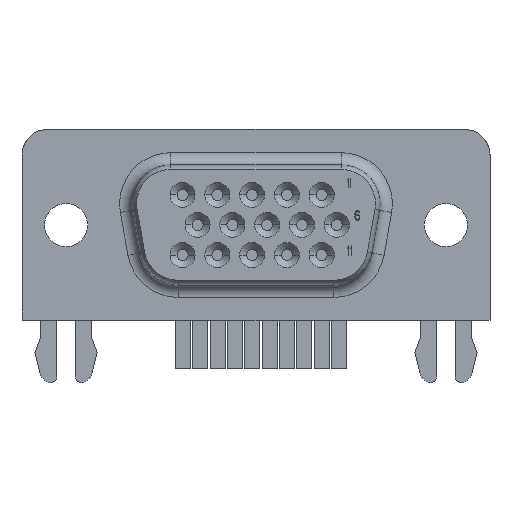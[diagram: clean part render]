
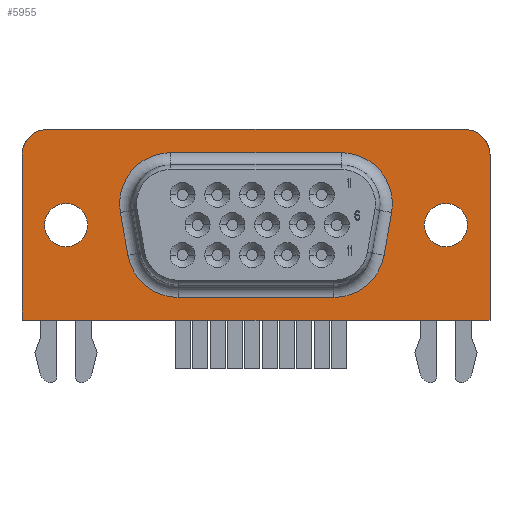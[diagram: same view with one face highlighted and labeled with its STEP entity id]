
A CAD part, top view. The second image highlights one B-rep face of the part: STEP entity #5955.
In plain terms, the highlighted planar face has unit normal (0, 0, 1).
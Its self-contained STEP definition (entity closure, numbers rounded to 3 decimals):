
#479=DIRECTION('',(-0.174,-0.985,0.));
#480=VECTOR('',#479,2.864);
#481=CARTESIAN_POINT('',(8.927,0.828,-6.));
#482=LINE('',#481,#480);
#493=CARTESIAN_POINT('',(5.625,1.41,-6.));
#494=DIRECTION('',(0.,0.,-1.));
#495=DIRECTION('',(0.,1.,0.));
#496=AXIS2_PLACEMENT_3D('',#493,#494,#495);
#507=DIRECTION('',(1.,0.,0.));
#508=VECTOR('',#507,11.25);
#509=CARTESIAN_POINT('',(-5.625,4.763,-6.));
#510=LINE('',#509,#508);
#521=CARTESIAN_POINT('',(-5.625,1.41,-6.));
#522=DIRECTION('',(0.,0.,-1.));
#523=DIRECTION('',(-0.985,-0.174,0.));
#524=AXIS2_PLACEMENT_3D('',#521,#522,#523);
#535=DIRECTION('',(-0.174,0.985,0.));
#536=VECTOR('',#535,2.864);
#537=CARTESIAN_POINT('',(-8.43,-1.992,-6.));
#538=LINE('',#537,#536);
#549=CARTESIAN_POINT('',(-5.128,-1.41,-6.));
#550=DIRECTION('',(0.,0.,-1.));
#551=DIRECTION('',(0.,-1.,0.));
#552=AXIS2_PLACEMENT_3D('',#549,#550,#551);
#563=DIRECTION('',(-1.,0.,0.));
#564=VECTOR('',#563,10.256);
#565=CARTESIAN_POINT('',(5.128,-4.763,-6.));
#566=LINE('',#565,#564);
#577=CARTESIAN_POINT('',(5.128,-1.41,-6.));
#578=DIRECTION('',(0.,0.,-1.));
#579=DIRECTION('',(0.985,-0.174,0.));
#580=AXIS2_PLACEMENT_3D('',#577,#578,#579);
#582=DIRECTION('',(1.,0.,0.));
#583=VECTOR('',#582,27.4);
#584=CARTESIAN_POINT('',(-13.7,6.3,-6.));
#585=LINE('',#584,#583);
#586=CARTESIAN_POINT('',(12.5,0.,-6.));
#587=DIRECTION('',(0.,0.,1.));
#588=DIRECTION('',(1.,0.,0.));
#589=AXIS2_PLACEMENT_3D('',#586,#587,#588);
#591=CARTESIAN_POINT('',(12.5,0.,-6.));
#592=DIRECTION('',(0.,0.,1.));
#593=DIRECTION('',(-1.,0.,0.));
#594=AXIS2_PLACEMENT_3D('',#591,#592,#593);
#596=CARTESIAN_POINT('',(-12.5,0.,-6.));
#597=DIRECTION('',(0.,0.,1.));
#598=DIRECTION('',(1.,0.,0.));
#599=AXIS2_PLACEMENT_3D('',#596,#597,#598);
#601=CARTESIAN_POINT('',(-12.5,0.,-6.));
#602=DIRECTION('',(0.,0.,1.));
#603=DIRECTION('',(-1.,0.,0.));
#604=AXIS2_PLACEMENT_3D('',#601,#602,#603);
#616=CARTESIAN_POINT('',(13.7,4.6,-6.));
#617=DIRECTION('',(0.,0.,1.));
#618=DIRECTION('',(1.,0.,0.));
#619=AXIS2_PLACEMENT_3D('',#616,#617,#618);
#661=DIRECTION('',(0.,-1.,0.));
#662=VECTOR('',#661,10.85);
#663=CARTESIAN_POINT('',(15.4,4.6,-6.));
#664=LINE('',#663,#662);
#1231=DIRECTION('',(1.,0.,0.));
#1232=VECTOR('',#1231,30.8);
#1233=CARTESIAN_POINT('',(-15.4,-6.25,-6.));
#1234=LINE('',#1233,#1232);
#2025=DIRECTION('',(0.,-1.,0.));
#2026=VECTOR('',#2025,10.85);
#2027=CARTESIAN_POINT('',(-15.4,4.6,-6.));
#2028=LINE('',#2027,#2026);
#2127=CARTESIAN_POINT('',(-13.7,4.6,-6.));
#2128=DIRECTION('',(0.,0.,1.));
#2129=DIRECTION('',(0.,1.,0.));
#2130=AXIS2_PLACEMENT_3D('',#2127,#2128,#2129);
#4008=CARTESIAN_POINT('',(-15.4,-6.25,-6.));
#4010=VERTEX_POINT('',#4008);
#4018=CARTESIAN_POINT('',(15.4,-6.25,-6.));
#4020=VERTEX_POINT('',#4018);
#4040=CARTESIAN_POINT('',(15.4,4.6,-6.));
#4041=CARTESIAN_POINT('',(13.7,6.3,-6.));
#4042=VERTEX_POINT('',#4040);
#4043=VERTEX_POINT('',#4041);
#4046=CARTESIAN_POINT('',(-13.7,6.3,-6.));
#4048=VERTEX_POINT('',#4046);
#4050=CARTESIAN_POINT('',(-15.4,4.6,-6.));
#4051=VERTEX_POINT('',#4050);
#4052=CARTESIAN_POINT('',(13.92,0.,-6.));
#4053=CARTESIAN_POINT('',(11.08,0.,-6.));
#4054=VERTEX_POINT('',#4052);
#4055=VERTEX_POINT('',#4053);
#4056=CARTESIAN_POINT('',(-11.08,0.,-6.));
#4057=CARTESIAN_POINT('',(-13.92,0.,-6.));
#4058=VERTEX_POINT('',#4056);
#4059=VERTEX_POINT('',#4057);
#4064=CARTESIAN_POINT('',(-5.625,4.763,-6.));
#4065=CARTESIAN_POINT('',(5.625,4.763,-6.));
#4066=VERTEX_POINT('',#4064);
#4067=VERTEX_POINT('',#4065);
#4070=CARTESIAN_POINT('',(-8.927,0.828,-6.));
#4071=VERTEX_POINT('',#4070);
#4074=CARTESIAN_POINT('',(-8.43,-1.992,-6.));
#4075=VERTEX_POINT('',#4074);
#4078=CARTESIAN_POINT('',(-5.128,-4.763,-6.));
#4079=VERTEX_POINT('',#4078);
#4082=CARTESIAN_POINT('',(5.128,-4.763,-6.));
#4083=VERTEX_POINT('',#4082);
#4086=CARTESIAN_POINT('',(8.43,-1.992,-6.));
#4087=VERTEX_POINT('',#4086);
#4090=CARTESIAN_POINT('',(8.927,0.828,-6.));
#4091=VERTEX_POINT('',#4090);
#5914=CARTESIAN_POINT('',(-15.4,6.3,-6.));
#5915=DIRECTION('',(0.,0.,1.));
#5916=DIRECTION('',(0.,-1.,0.));
#5917=AXIS2_PLACEMENT_3D('',#5914,#5915,#5916);
#5918=PLANE('',#5917);
#5920=ORIENTED_EDGE('',*,*,#5919,.F.);
#5922=ORIENTED_EDGE('',*,*,#5921,.T.);
#5924=ORIENTED_EDGE('',*,*,#5923,.F.);
#5926=ORIENTED_EDGE('',*,*,#5925,.F.);
#5928=ORIENTED_EDGE('',*,*,#5927,.F.);
#5930=ORIENTED_EDGE('',*,*,#5929,.T.);
#5931=EDGE_LOOP('',(#5920,#5922,#5924,#5926,#5928,#5930));
#5932=FACE_OUTER_BOUND('',#5931,.F.);
#5934=ORIENTED_EDGE('',*,*,#5933,.T.);
#5936=ORIENTED_EDGE('',*,*,#5935,.T.);
#5937=EDGE_LOOP('',(#5934,#5936));
#5938=FACE_BOUND('',#5937,.F.);
#5940=ORIENTED_EDGE('',*,*,#5939,.T.);
#5942=ORIENTED_EDGE('',*,*,#5941,.T.);
#5943=EDGE_LOOP('',(#5940,#5942));
#5944=FACE_BOUND('',#5943,.F.);
#5945=ORIENTED_EDGE('',*,*,#5839,.F.);
#5946=ORIENTED_EDGE('',*,*,#5853,.F.);
#5947=ORIENTED_EDGE('',*,*,#5867,.F.);
#5948=ORIENTED_EDGE('',*,*,#5881,.F.);
#5949=ORIENTED_EDGE('',*,*,#5895,.F.);
#5950=ORIENTED_EDGE('',*,*,#5908,.F.);
#5951=ORIENTED_EDGE('',*,*,#5810,.F.);
#5952=ORIENTED_EDGE('',*,*,#5825,.F.);
#5953=EDGE_LOOP('',(#5945,#5946,#5947,#5948,#5949,#5950,#5951,#5952));
#5954=FACE_BOUND('',#5953,.F.);
#497=CIRCLE('',#496,3.353);
#525=CIRCLE('',#524,3.353);
#553=CIRCLE('',#552,3.353);
#581=CIRCLE('',#580,3.353);
#590=CIRCLE('',#589,1.42);
#595=CIRCLE('',#594,1.42);
#600=CIRCLE('',#599,1.42);
#605=CIRCLE('',#604,1.42);
#620=CIRCLE('',#619,1.7);
#2131=CIRCLE('',#2130,1.7);
#5810=EDGE_CURVE('',#4091,#4087,#482,.T.);
#5825=EDGE_CURVE('',#4067,#4091,#497,.T.);
#5839=EDGE_CURVE('',#4066,#4067,#510,.T.);
#5853=EDGE_CURVE('',#4071,#4066,#525,.T.);
#5867=EDGE_CURVE('',#4075,#4071,#538,.T.);
#5881=EDGE_CURVE('',#4079,#4075,#553,.T.);
#5895=EDGE_CURVE('',#4083,#4079,#566,.T.);
#5908=EDGE_CURVE('',#4087,#4083,#581,.T.);
#5919=EDGE_CURVE('',#4042,#4043,#620,.T.);
#5921=EDGE_CURVE('',#4042,#4020,#664,.T.);
#5923=EDGE_CURVE('',#4010,#4020,#1234,.T.);
#5925=EDGE_CURVE('',#4051,#4010,#2028,.T.);
#5927=EDGE_CURVE('',#4048,#4051,#2131,.T.);
#5929=EDGE_CURVE('',#4048,#4043,#585,.T.);
#5933=EDGE_CURVE('',#4054,#4055,#590,.T.);
#5935=EDGE_CURVE('',#4055,#4054,#595,.T.);
#5939=EDGE_CURVE('',#4058,#4059,#600,.T.);
#5941=EDGE_CURVE('',#4059,#4058,#605,.T.);
#5955=ADVANCED_FACE('',(#5932,#5938,#5944,#5954),#5918,.T.);
